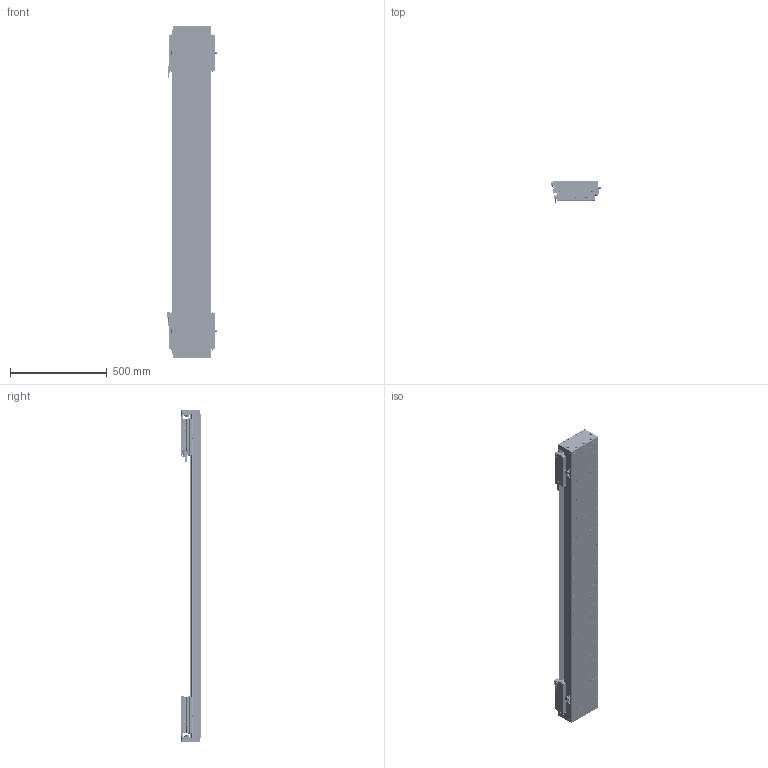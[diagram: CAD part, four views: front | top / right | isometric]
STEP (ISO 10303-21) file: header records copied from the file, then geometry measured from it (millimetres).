
FILE_DESCRIPTION (( 'STEP AP203' ), '1' );
FILE_NAME ('DA-C195-2-C2-T1220-C010-0.2 眻盄萇儂.STEP', '2025-08-14T02:03:29', ( '' ), ( '' ), 'SwSTEP 2.0', 'SolidWorks 2019', '' );
FILE_SCHEMA (( 'CONFIG_CONTROL_DESIGN' ));
Length unit declared in the file: millimetre
Products named in the file (19): DKW168-HXJ-ZJ-00 笢潔滅袉砎蝶; CU195-C2賑輸-俋楷; DA195詩湍嶺輸; MS200 棠掑喜S315-T1740; DA-C195-GD-DB-H-00 傷啣; LMT黍杅芛; DA195詩湍裔啣; DA195詩湍菜輸; PM-Y65嫖萇羲壽郪璃; IU-CU195-L 菁釱絳寢; 葩璃 DA95-GT-T-00; PM-T45ㄗ侂狟ㄘ; DA195詩湍郪璃; IU-CU195-L-00 菁釱(L1680); DA165-GYP-00 光电感应片(默认); DKW-KGZ-ZJ-00 中间光电开关支架; DA-C195-2-C2-T1220-C010-0.2 眻盄萇儂; DKW-GYP-ZJ-00 笢潔嫖萇覜茼え; DA95-HXJ-00 遣喳砎蝶
Assembly tree (37 placements, depth 3):
  DA-C195-2-C2-T1220-C010-0.2 眻盄萇儂
    DA195詩湍郪璃
      DA195詩湍菜輸  x2
      DA195詩湍裔啣
      DA195詩湍嶺輸  x2
      DA95-HXJ-00 遣喳砎蝶  x8
      DA-C195-GD-DB-H-00 傷啣  x2
    IU-CU195-L 菁釱絳寢
      IU-CU195-L-00 菁釱(L1680)
      葩璃 DA95-GT-T-00  x4
    LMT黍杅芛  x2
    MS200 棠掑喜S315-T1740
    PM-T45ㄗ侂狟ㄘ  x4
    DA165-GYP-00 光电感应片(默认)  x2
    PM-Y65嫖萇羲壽郪璃
    DKW168-HXJ-ZJ-00 笢潔滅袉砎蝶
    DKW-GYP-ZJ-00 笢潔嫖萇覜茼え
    DKW-KGZ-ZJ-00 中间光电开关支架
    CU195-C2賑輸-俋楷  x2
Bounding box: 258.2 x 115.45 x 1720 mm (x, y, z)
Volume: 11732170.3 mm3; surface area: 3320345.4 mm2
Topology: 114 solids, 242 shells, 6625 faces, 17111 edges, 10577 vertices
Faces by surface type: cylinder 2932, plane 2609, cone 916, torus 88, sphere 72, bspline 8
Entity records: 131055 total; most frequent: CARTESIAN_POINT 32507, ORIENTED_EDGE 20054, DIRECTION 19930, EDGE_CURVE 10027, AXIS2_PLACEMENT_3D 7305, VERTEX_POINT 6464, VECTOR 5320, LINE 5320
